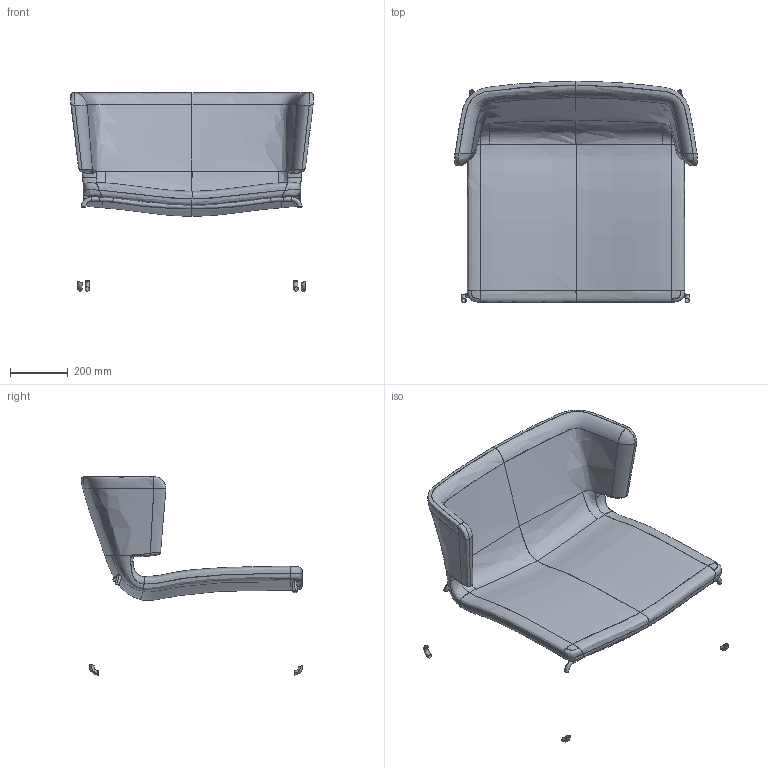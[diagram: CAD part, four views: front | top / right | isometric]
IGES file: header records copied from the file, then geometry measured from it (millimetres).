
Start section: SolidWorks IGES file using NURBS representation for surfaces
Global section: file name: C:\Users\RUBEN\Desktop\VICCARBE_Wrapp_sled_armchair_3D.IGS; native system: SolidWorks 2009; preprocessor: SolidWorks 2009; author: RUBEN; date: 111006.175012; units: millimetre
Bounding box: 839.66 x 766.54 x 686.95 mm (x, y, z)
Surface area: 1907469.8 mm2 (no closed solid volume)
Topology: 0 solids, 0 shells, 94 faces, 1032 edges, 1020 vertices
Faces by surface type: bspline 94
